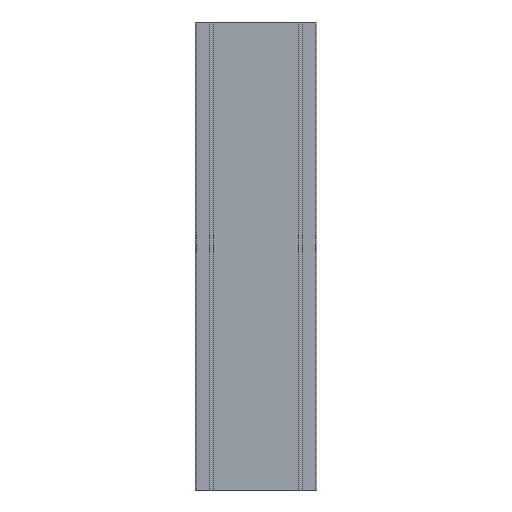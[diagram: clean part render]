
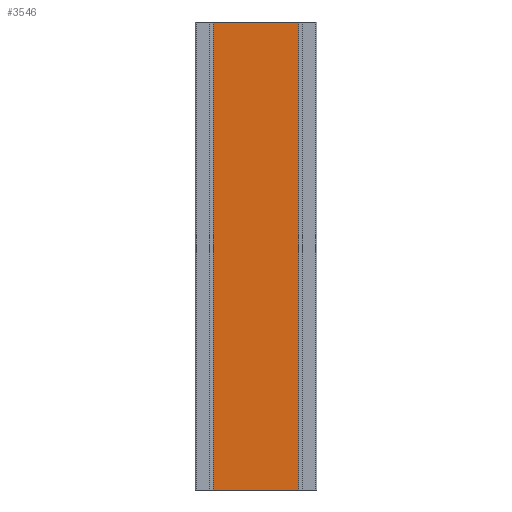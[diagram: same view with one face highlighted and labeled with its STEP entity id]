
A CAD part, left-side view. The second image highlights one B-rep face of the part: STEP entity #3546.
In plain terms, the highlighted planar face has unit normal (-1, 0, 0).
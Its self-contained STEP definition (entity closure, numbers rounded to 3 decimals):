
#8 = CARTESIAN_POINT ( 'NONE',  ( 205.965, 241.411, 0. ) ) ;
#35 = CARTESIAN_POINT ( 'NONE',  ( 205.965, 59.611, 0. ) ) ;
#163 = ORIENTED_EDGE ( 'NONE', *, *, #5731, .F. ) ;
#192 = CARTESIAN_POINT ( 'NONE',  ( 205.965, 59.611, 0. ) ) ;
#298 = VERTEX_POINT ( 'NONE', #5396 ) ;
#550 = CARTESIAN_POINT ( 'NONE',  ( 205.965, 241.411, 0. ) ) ;
#647 = ORIENTED_EDGE ( 'NONE', *, *, #2634, .T. ) ;
#1019 = LINE ( 'NONE', #2939, #2123 ) ;
#1064 = AXIS2_PLACEMENT_3D ( 'NONE', #550, #1519, #3434 ) ;
#1253 = EDGE_CURVE ( 'NONE', #3096, #298, #1019, .T. ) ;
#1271 = EDGE_LOOP ( 'NONE', ( #163, #2045, #6001, #647 ) ) ;
#1519 = DIRECTION ( 'NONE',  ( -1., 0., 0. ) ) ;
#1953 = DIRECTION ( 'NONE',  ( 0., -1., 0. ) ) ;
#2045 = ORIENTED_EDGE ( 'NONE', *, *, #1253, .F. ) ;
#2094 = CARTESIAN_POINT ( 'NONE',  ( 205.965, 241.411, 0. ) ) ;
#2115 = FACE_OUTER_BOUND ( 'NONE', #1271, .T. ) ;
#2123 = VECTOR ( 'NONE', #5348, 1000. ) ;
#2634 = EDGE_CURVE ( 'NONE', #5716, #4688, #5359, .T. ) ;
#2858 = VECTOR ( 'NONE', #4743, 1000. ) ;
#2893 = CARTESIAN_POINT ( 'NONE',  ( 205.965, 241.411, 1000. ) ) ;
#2939 = CARTESIAN_POINT ( 'NONE',  ( 205.965, 241.411, 0. ) ) ;
#3096 = VERTEX_POINT ( 'NONE', #2094 ) ;
#3410 = EDGE_CURVE ( 'NONE', #3096, #5716, #4773, .T. ) ;
#3434 = DIRECTION ( 'NONE',  ( 0., -1., 0. ) ) ;
#3546 = ADVANCED_FACE ( 'NONE', ( #2115 ), #4839, .T. ) ;
#3697 = CARTESIAN_POINT ( 'NONE',  ( 205.965, 59.611, 1000. ) ) ;
#3767 = LINE ( 'NONE', #2893, #5788 ) ;
#4480 = DIRECTION ( 'NONE',  ( 0., 0., 1. ) ) ;
#4688 = VERTEX_POINT ( 'NONE', #3697 ) ;
#4743 = DIRECTION ( 'NONE',  ( 0., -1., 0. ) ) ;
#4773 = LINE ( 'NONE', #8, #2858 ) ;
#4839 = PLANE ( 'NONE',  #1064 ) ;
#5348 = DIRECTION ( 'NONE',  ( 0., 0., 1. ) ) ;
#5359 = LINE ( 'NONE', #192, #5539 ) ;
#5396 = CARTESIAN_POINT ( 'NONE',  ( 205.965, 241.411, 1000. ) ) ;
#5539 = VECTOR ( 'NONE', #4480, 1000. ) ;
#5716 = VERTEX_POINT ( 'NONE', #35 ) ;
#5731 = EDGE_CURVE ( 'NONE', #298, #4688, #3767, .T. ) ;
#5788 = VECTOR ( 'NONE', #1953, 1000. ) ;
#6001 = ORIENTED_EDGE ( 'NONE', *, *, #3410, .T. ) ;
